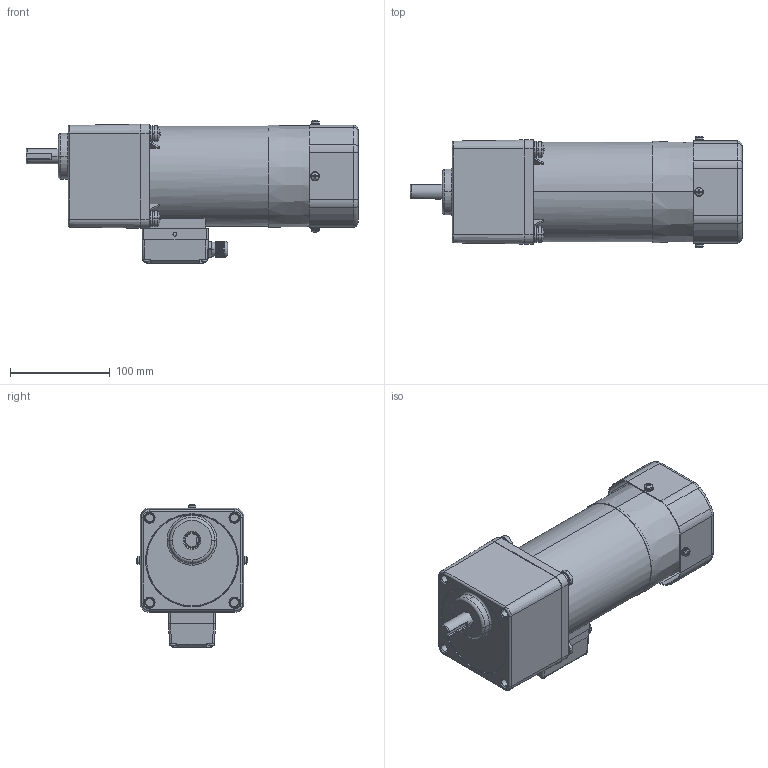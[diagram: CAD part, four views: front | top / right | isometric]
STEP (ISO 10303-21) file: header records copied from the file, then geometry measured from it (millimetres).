
FILE_DESCRIPTION (( 'STEP AP203' ), '1' );
FILE_NAME ('6RK140GU-CMFT(6GU3K-200K).STEP', '2022-11-01T00:34:59', ( 'Windows User' ), ( 'P R C' ), 'SwSTEP 2.0', 'SolidWorks 2019', '' );
FILE_SCHEMA (( 'CONFIG_CONTROL_DESIGN' ));
Length unit declared in the file: millimetre
Products named in the file (12): 70TSJXHG^6RK120A-CMFT_6RK140GU-CMFT(6GU3K-200K)(2)_6RK140GU-CMFT(6GU3K-200K); 6RK140GU-CMFT(6GU3K-200K); 100FZ^6RK120A-CMFT_6RK140GU-CMFT(6GU3K-200K)(2)_6RK140GU-CMFT(6GU3K-200K); 葩璃 (2) ^_70TSJXHG_6RK120A-CMFT_6RK140GU-CMFT(6GU3K-200K)(2)_6RK140GU-CMFT(6GU3K-200K); 6RK120A-CMFT^6RK140GU-CMFT(6GU3K-200K)(2)_6RK140GU-CMFT(6GU3K-200K); 100SCZ^6RK120A-CMFT_6RK140GU-CMFT(6GU3K-200K)(2)_6RK140GU-CMFT(6GU3K-200K); 100GJXHJK^6RK120A-CMFT_6RK140GU-CMFT(6GU3K-200K)(2)_6RK140GU-CMFT(6GU3K-200K); 6GU3K-200K; 葩璃 (3) ^_70TSJXHG_6RK120A-CMFT_6RK140GU-CMFT(6GU3K-200K)(2)_6RK140GU-CMFT(6GU3K-200K); ^70TSJXHG_6RK120A-CMFT_6RK140GU-CMFT(6GU3K-200K)(2)_6RK140GU-CMFT(6GU3K-200K); ^_70TSJXHG_6RK120A-CMFT_6RK140GU-CMFT(6GU3K-200K)(2)_6RK140GU-CMFT(6GU3K-200K); 6RK140GU-CMFT(6GU3K-200K)(2)^6RK140GU-CMFT(6GU3K-200K)
Assembly tree (14 placements, depth 6):
  6RK140GU-CMFT(6GU3K-200K)
    6RK140GU-CMFT(6GU3K-200K)(2)^6RK140GU-CMFT(6GU3K-200K)
      6RK120A-CMFT^6RK140GU-CMFT(6GU3K-200K)(2)_6RK140GU-CMFT(6GU3K-200K)
        70TSJXHG^6RK120A-CMFT_6RK140GU-CMFT(6GU3K-200K)(2)_6RK140GU-CMFT(6GU3K-200K)
          ^70TSJXHG_6RK120A-CMFT_6RK140GU-CMFT(6GU3K-200K)(2)_6RK140GU-CMFT(6GU3K-200K)
            ^_70TSJXHG_6RK120A-CMFT_6RK140GU-CMFT(6GU3K-200K)(2)_6RK140GU-CMFT(6GU3K-200K)
            葩璃 (2) ^_70TSJXHG_6RK120A-CMFT_6RK140GU-CMFT(6GU3K-200K)(2)_6RK140GU-CMFT(6GU3K-200K)
            葩璃 (3) ^_70TSJXHG_6RK120A-CMFT_6RK140GU-CMFT(6GU3K-200K)(2)_6RK140GU-CMFT(6GU3K-200K)  x4
        100GJXHJK^6RK120A-CMFT_6RK140GU-CMFT(6GU3K-200K)(2)_6RK140GU-CMFT(6GU3K-200K)
        100SCZ^6RK120A-CMFT_6RK140GU-CMFT(6GU3K-200K)(2)_6RK140GU-CMFT(6GU3K-200K)
        100FZ^6RK120A-CMFT_6RK140GU-CMFT(6GU3K-200K)(2)_6RK140GU-CMFT(6GU3K-200K)
    6GU3K-200K
Bounding box: 332 x 111.91 x 143.46 mm (x, y, z)
Volume: 2382121.2 mm3; surface area: 247571.4 mm2
Topology: 34 solids, 34 shells, 1593 faces, 4116 edges, 2626 vertices
Faces by surface type: cylinder 692, plane 463, cone 316, torus 72, sphere 40, bspline 10
Entity records: 43410 total; most frequent: CARTESIAN_POINT 11969, DIRECTION 6626, ORIENTED_EDGE 6220, EDGE_CURVE 3110, AXIS2_PLACEMENT_3D 2659, VERTEX_POINT 2010, CIRCLE 1442, EDGE_LOOP 1318
